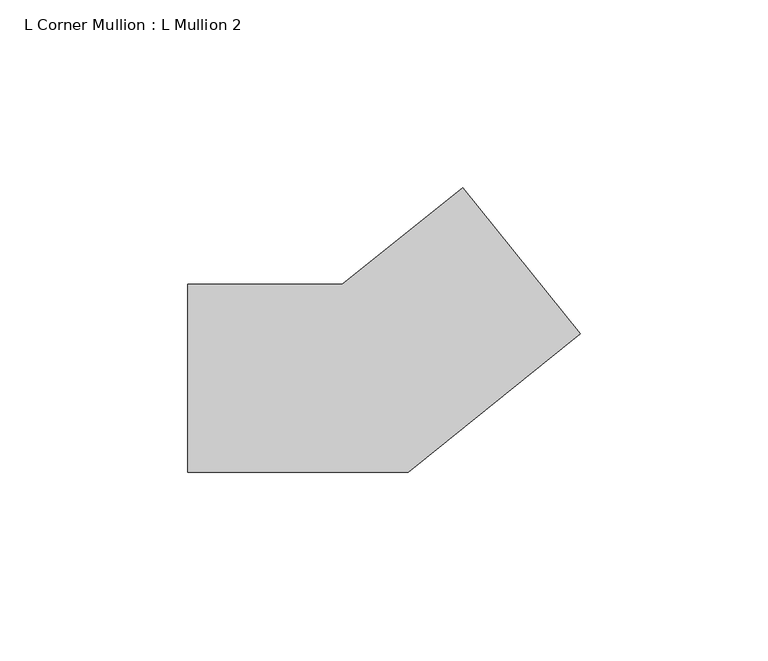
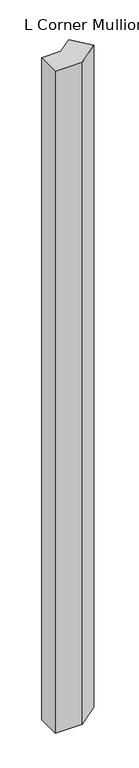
"""IFC4 building model written with IfcOpenShell, lengths in millimetres: member geometry, L Corner Mullion : L Mullion 2."""

from ifc_helpers import new_model, si_unit, frame, origin, place, context, project, spatial, polyline, outline, extrude, source, transform, mapped, element, save


def l_corner_mullion_l_mullion_2_dc8d79be(model_context):
    return source(origin(), model_context, "Body", "SweptSolid", [
        extrude(outline(polyline([(54.6368772, 11.8241978), (8.7980927, -25.0), (-50.0, -25.0), (-50.0, 25.0), (-8.7980927, 25.0), (23.322768, 50.8040204), (54.6368772, 11.8241978)])), frame((0.0, 0.0, -1510.8656193), z_axis=(0.0, 0.0, 1.0), x_axis=(1.0, 0.0, 0.0)), (0.0, 0.0, 1.0), 1510.8656193),
    ])


if __name__ == "__main__":
    model = new_model("IFC4")
    model_context = context("Model", 3, world=origin())
    ifc_project = project(units=[si_unit("LENGTHUNIT", "METRE", prefix="MILLI")], contexts=[model_context])
    site = spatial("IfcSite", under=ifc_project)
    building = spatial("IfcBuilding", under=site)
    placement = place(None, origin())
    l_corner_mullion_l_mullion_2_shape = l_corner_mullion_l_mullion_2_dc8d79be(model_context)
    element("IfcMember", 1, ObjectType="L Corner Mullion : L Mullion 2", at=placement, inside=building, context=model_context, shape_type="MappedRepresentation", body=[
        mapped(l_corner_mullion_l_mullion_2_shape, transform((0.0, 0.0, 0.0), x_axis=(1.0, 0.0, 0.0), y_axis=(0.0, 1.0, 0.0), z_axis=(0.0, 0.0, 1.0))),
    ])
    save(model, "model.ifc")
